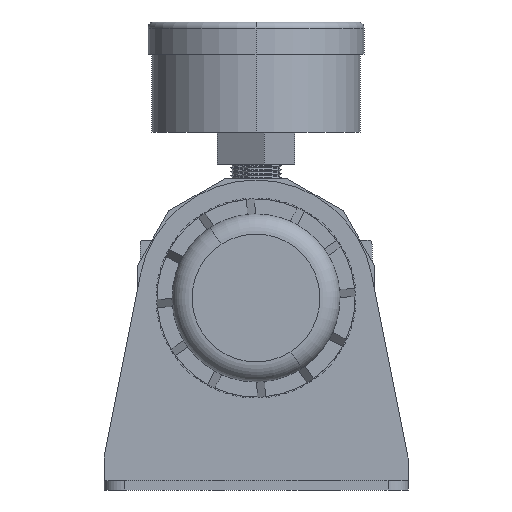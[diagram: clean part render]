
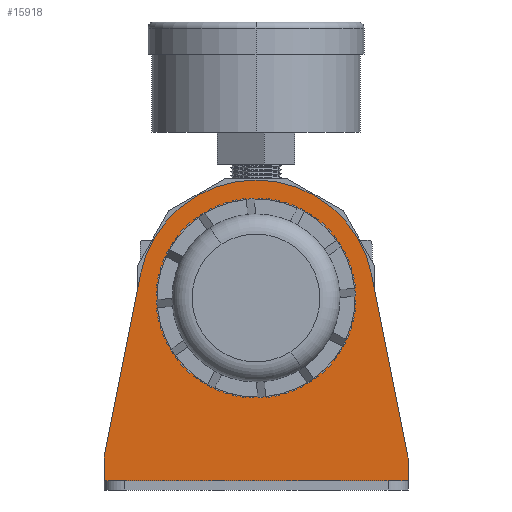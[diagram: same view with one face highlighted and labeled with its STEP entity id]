
A CAD part, front view. The second image highlights one B-rep face of the part: STEP entity #15918.
In plain terms, the highlighted planar face has unit normal (0, -1, 0) as drawn and (0, 1, 0) by its records, which use the part's own axes.
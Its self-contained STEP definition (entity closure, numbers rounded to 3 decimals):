
#106 = ORIENTED_EDGE ( 'NONE', *, *, #23082, .T. ) ;
#565 = AXIS2_PLACEMENT_3D ( 'NONE', #13238, #6709, #650 ) ;
#650 = DIRECTION ( 'NONE',  ( 0., 0., 1. ) ) ;
#758 = CARTESIAN_POINT ( 'NONE',  ( 38., 2.3, -40. ) ) ;
#1169 = LINE ( 'NONE', #13751, #5097 ) ;
#1538 = PLANE ( 'NONE',  #565 ) ;
#1994 = CARTESIAN_POINT ( 'NONE',  ( -28.937, 2.3, 5.734 ) ) ;
#2044 = DIRECTION ( 'NONE',  ( 0., 0., 1. ) ) ;
#2340 = ORIENTED_EDGE ( 'NONE', *, *, #21953, .T. ) ;
#2344 = ORIENTED_EDGE ( 'NONE', *, *, #6692, .F. ) ;
#2347 = DIRECTION ( 'NONE',  ( 0., 1., 0. ) ) ;
#2366 = CIRCLE ( 'NONE', #10016, 24. ) ;
#2462 = CARTESIAN_POINT ( 'NONE',  ( 28.937, 2.3, 5.734 ) ) ;
#3558 = EDGE_CURVE ( 'NONE', #6933, #11651, #14207, .T. ) ;
#3681 = CARTESIAN_POINT ( 'NONE',  ( 0., 2.3, 0. ) ) ;
#4017 = EDGE_LOOP ( 'NONE', ( #2344, #2340, #106, #14967, #4456, #14930 ) ) ;
#4153 = DIRECTION ( 'NONE',  ( 1., 0., 0. ) ) ;
#4163 = CARTESIAN_POINT ( 'NONE',  ( -38., 2.3, -40. ) ) ;
#4203 = VERTEX_POINT ( 'NONE', #2462 ) ;
#4226 = DIRECTION ( 'NONE',  ( 0., 0., -1. ) ) ;
#4456 = ORIENTED_EDGE ( 'NONE', *, *, #19495, .T. ) ;
#4733 = AXIS2_PLACEMENT_3D ( 'NONE', #3681, #2347, #5859 ) ;
#4758 = VERTEX_POINT ( 'NONE', #10494 ) ;
#5097 = VECTOR ( 'NONE', #2044, 1000. ) ;
#5268 = EDGE_CURVE ( 'NONE', #21063, #4203, #17506, .T. ) ;
#5449 = FACE_BOUND ( 'NONE', #18817, .T. ) ;
#5859 = DIRECTION ( 'NONE',  ( 0., 0., 1. ) ) ;
#6471 = CARTESIAN_POINT ( 'NONE',  ( 38., 2.3, -45.7 ) ) ;
#6692 = EDGE_CURVE ( 'NONE', #4758, #11651, #17583, .T. ) ;
#6709 = DIRECTION ( 'NONE',  ( 0., 1., 0. ) ) ;
#6933 = VERTEX_POINT ( 'NONE', #758 ) ;
#7616 = VECTOR ( 'NONE', #4153, 1000. ) ;
#8030 = CARTESIAN_POINT ( 'NONE',  ( 38., 2.3, -40. ) ) ;
#8759 = VECTOR ( 'NONE', #11063, 1000. ) ;
#9061 = DIRECTION ( 'NONE',  ( 0.194, 0., 0.981 ) ) ;
#9405 = VERTEX_POINT ( 'NONE', #4163 ) ;
#10016 = AXIS2_PLACEMENT_3D ( 'NONE', #19315, #22336, #24960 ) ;
#10494 = CARTESIAN_POINT ( 'NONE',  ( -38., 2.3, -45.7 ) ) ;
#10644 = FACE_OUTER_BOUND ( 'NONE', #4017, .T. ) ;
#11063 = DIRECTION ( 'NONE',  ( 0.194, 0., -0.981 ) ) ;
#11096 = CARTESIAN_POINT ( 'NONE',  ( 0., 2.3, -45.7 ) ) ;
#11224 = VECTOR ( 'NONE', #4226, 1000. ) ;
#11651 = VERTEX_POINT ( 'NONE', #6471 ) ;
#13101 = AXIS2_PLACEMENT_3D ( 'NONE', #17823, #19573, #25194 ) ;
#13238 = CARTESIAN_POINT ( 'NONE',  ( 0., 2.3, 0. ) ) ;
#13751 = CARTESIAN_POINT ( 'NONE',  ( -38., 2.3, -48. ) ) ;
#14207 = LINE ( 'NONE', #14636, #11224 ) ;
#14511 = ORIENTED_EDGE ( 'NONE', *, *, #22288, .F. ) ;
#14636 = CARTESIAN_POINT ( 'NONE',  ( 38., 2.3, -48. ) ) ;
#14930 = ORIENTED_EDGE ( 'NONE', *, *, #3558, .T. ) ;
#14967 = ORIENTED_EDGE ( 'NONE', *, *, #5268, .T. ) ;
#15636 = CARTESIAN_POINT ( 'NONE',  ( 0., 2.3, 24. ) ) ;
#15918 = ADVANCED_FACE ( 'NONE', ( #5449, #10644 ), #1538, .T. ) ;
#17276 = VECTOR ( 'NONE', #9061, 1000. ) ;
#17506 = CIRCLE ( 'NONE', #4733, 29.5 ) ;
#17583 = LINE ( 'NONE', #11096, #7616 ) ;
#17823 = CARTESIAN_POINT ( 'NONE',  ( 0., 2.3, 0. ) ) ;
#18255 = VERTEX_POINT ( 'NONE', #24595 ) ;
#18817 = EDGE_LOOP ( 'NONE', ( #14511, #22301 ) ) ;
#18873 = VERTEX_POINT ( 'NONE', #15636 ) ;
#19315 = CARTESIAN_POINT ( 'NONE',  ( 0., 2.3, 0. ) ) ;
#19495 = EDGE_CURVE ( 'NONE', #4203, #6933, #20157, .T. ) ;
#19573 = DIRECTION ( 'NONE',  ( 0., 1., 0. ) ) ;
#20157 = LINE ( 'NONE', #8030, #8759 ) ;
#21063 = VERTEX_POINT ( 'NONE', #1994 ) ;
#21953 = EDGE_CURVE ( 'NONE', #4758, #9405, #1169, .T. ) ;
#22288 = EDGE_CURVE ( 'NONE', #18873, #18255, #2366, .T. ) ;
#22301 = ORIENTED_EDGE ( 'NONE', *, *, #24658, .F. ) ;
#22336 = DIRECTION ( 'NONE',  ( 0., 1., 0. ) ) ;
#22434 = CARTESIAN_POINT ( 'NONE',  ( -38., 2.3, -40. ) ) ;
#22691 = CIRCLE ( 'NONE', #13101, 24. ) ;
#23082 = EDGE_CURVE ( 'NONE', #9405, #21063, #23303, .T. ) ;
#23303 = LINE ( 'NONE', #22434, #17276 ) ;
#24595 = CARTESIAN_POINT ( 'NONE',  ( 0., 2.3, -24. ) ) ;
#24658 = EDGE_CURVE ( 'NONE', #18255, #18873, #22691, .T. ) ;
#24960 = DIRECTION ( 'NONE',  ( 0., 0., 1. ) ) ;
#25194 = DIRECTION ( 'NONE',  ( 0., 0., 1. ) ) ;
